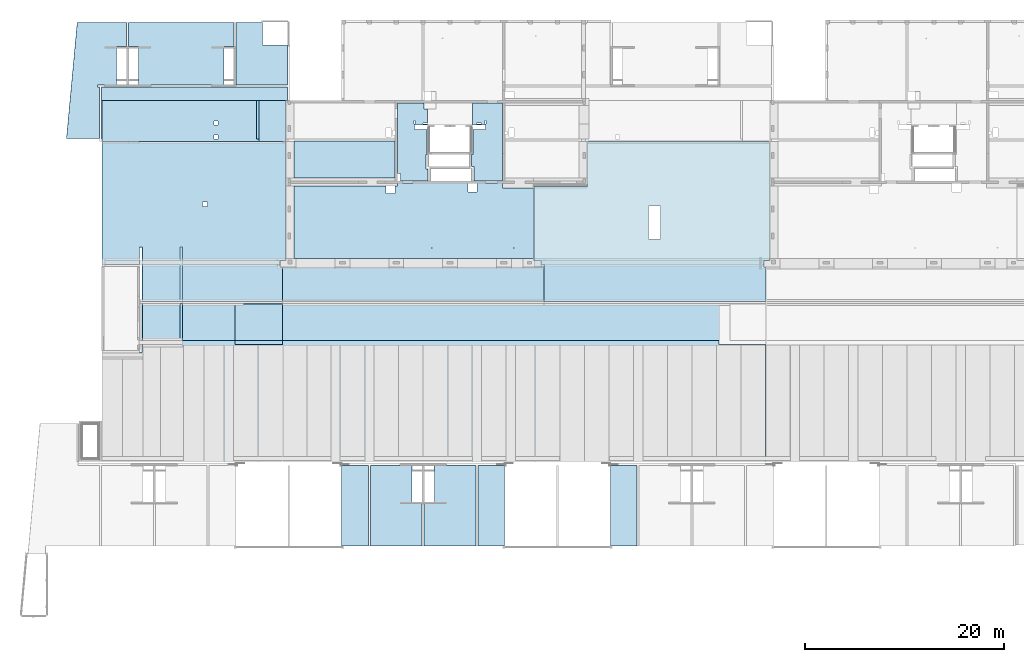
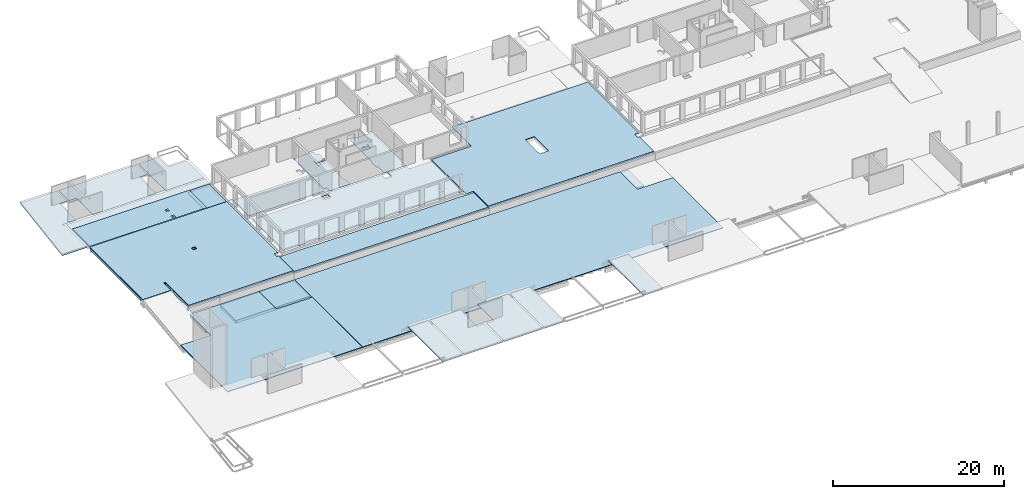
# One storey, part 15 of 36: 33 slabs, 20 openings.
"""IFC2X3 building model written with IfcOpenShell, lengths in millimetres."""

import ifcopenshell
import ifcopenshell.guid

model = None  # the IFC model being written
_history = None  # IfcOwnerHistory: only IFC2X3 demands one
_inside = {}  # id of a spatial element -> (the spatial element, [elements in it])
_under = {}  # id of a project, library or spatial element -> (it, [spatial elements below it])
_declared = {}  # id of a project -> (the project, [libraries it declares])
_typed = {}  # id of a type object -> (the type object, [elements of that type])
_made_of = {}  # id of a material, layer set ... -> (it, [elements and type objects made of it])


def new_model(schema):
    """Start an empty IFC model of exactly this schema.

    Asked for "IFC4X3", IfcOpenShell would pick the latest addendum, in which some entities
    have other attributes; the version numbers below select the first issue.
    IFC2X3 requires an IfcOwnerHistory on every rooted entity: one is made here for all.
    """
    global model, _history
    if schema == "IFC4X3":
        model = ifcopenshell.file(schema_version=(4, 3, 0, 0))
    else:
        model = ifcopenshell.file(schema=schema)
    _inside.clear()
    _under.clear()
    _declared.clear()
    _typed.clear()
    _made_of.clear()
    _history = None
    if model.schema == "IFC2X3":
        org = make("IfcOrganization", Name="unknown")
        user = make(
            "IfcPersonAndOrganization",
            ThePerson=make("IfcPerson", FamilyName="unknown"),
            TheOrganization=org,
        )
        app = make(
            "IfcApplication",
            ApplicationDeveloper=org,
            Version="unknown",
            ApplicationFullName="unknown",
            ApplicationIdentifier="unknown",
        )
        _history = make(
            "IfcOwnerHistory",
            OwningUser=user,
            OwningApplication=app,
            ChangeAction="ADDED",
            CreationDate=0,
        )
    return model


def make(cls, **values):
    """One entity of the class cls with the attributes given. An attribute that is None is left unset."""
    return model.create_entity(
        cls, **{name: value for name, value in values.items() if value is not None}
    )


def entity(cls, *values):
    """Any entity or typed value of the class cls, its attributes in the order of the schema. None: left unset."""
    e = model.create_entity(cls)
    for i, value in enumerate(values):
        if value is not None:
            e[i] = value
    return e


def rooted(cls, **values):
    """An entity with a GlobalId (a new one), such as an element, a storey or a relation."""
    return make(cls, GlobalId=ifcopenshell.guid.new(), OwnerHistory=_history, **values)


def si_unit(unit_type, name, prefix=None):
    """IfcSIUnit, for example si_unit("LENGTHUNIT", "METRE", prefix="MILLI")."""
    return make("IfcSIUnit", UnitType=unit_type, Prefix=prefix, Name=name)


def converted_unit(unit_type, name, factor, base, dimensions=None, offset=None):
    """IfcConversionBasedUnit, such as the inch: factor (a typed value) times the base unit."""
    return make(
        "IfcConversionBasedUnit"
        if offset is None
        else "IfcConversionBasedUnitWithOffset",
        ConversionOffset=offset,
        Dimensions=None
        if dimensions is None
        else entity("IfcDimensionalExponents", *dimensions),
        UnitType=unit_type,
        Name=name,
        ConversionFactor=make(
            "IfcMeasureWithUnit", ValueComponent=factor, UnitComponent=base
        ),
    )


def derived_unit(unit_type, elements):
    """IfcDerivedUnit: a product of units, each with its exponent."""
    return make(
        "IfcDerivedUnit",
        Elements=[
            make("IfcDerivedUnitElement", Unit=unit, Exponent=power)
            for unit, power in elements
        ],
        UnitType=unit_type,
    )


def assignment(units):
    """IfcUnitAssignment: the units of a project."""
    return None if units is None else make("IfcUnitAssignment", Units=units)


def point(xyz):
    """IfcCartesianPoint."""
    return None if xyz is None else make("IfcCartesianPoint", Coordinates=xyz)


def direction(xyz):
    """IfcDirection."""
    return None if xyz is None else make("IfcDirection", DirectionRatios=xyz)


def frame(location, z_axis=None, x_axis=None):
    """IfcAxis2Placement3D, a coordinate frame: its origin and axes. An axis left out is left unset."""
    return make(
        "IfcAxis2Placement3D",
        Location=point(location),
        Axis=direction(z_axis),
        RefDirection=direction(x_axis),
    )


def frame_2d(location, x_axis=None):
    """IfcAxis2Placement2D, a coordinate frame in the plane: its origin and x axis."""
    return make(
        "IfcAxis2Placement2D", Location=point(location), RefDirection=direction(x_axis)
    )


def origin():
    """The frame at (0, 0, 0) with its axes left unset."""
    return frame((0.0, 0.0, 0.0))


def origin_2d_with_axis():
    """The frame at (0, 0) in the plane with the x axis (1, 0) written out."""
    return frame_2d((0.0, 0.0), x_axis=(1.0, 0.0))


def place(relative_to, where):
    """IfcLocalPlacement: puts the frame where relative to a parent placement (None: the world)."""
    return make(
        "IfcLocalPlacement", PlacementRelTo=relative_to, RelativePlacement=where
    )


def context(
    kind, dimensions, precision=None, world=None, true_north=None, identifier=None
):
    """IfcGeometricRepresentationContext, for example the 3D "Model" context."""
    return make(
        "IfcGeometricRepresentationContext",
        ContextIdentifier=identifier,
        ContextType=kind,
        CoordinateSpaceDimension=dimensions,
        Precision=precision,
        WorldCoordinateSystem=world,
        TrueNorth=true_north,
    )


def subcontext(parent, identifier, kind, view, scale=None):
    """IfcGeometricRepresentationSubContext, for example "Body" below "Model"."""
    return make(
        "IfcGeometricRepresentationSubContext",
        ContextIdentifier=identifier,
        ContextType=kind,
        ParentContext=parent,
        TargetScale=scale,
        TargetView=view,
    )


def project(units=None, contexts=None):
    """IfcProject with its units and contexts."""
    return rooted(
        "IfcProject",
        Name="project",
        RepresentationContexts=contexts,
        UnitsInContext=assignment(units),
    )


def spatial(cls, under=None, at=None, **own):
    """A site, building, storey or space (cls), placed at a placement, below another one or the project."""
    s = rooted(cls, ObjectPlacement=at, **own)
    if under is not None:
        _under.setdefault(under.id(), (under, []))[1].append(s)
    return s


def polyline(points):
    """IfcPolyline through the points."""
    return make("IfcPolyline", Points=[point(p) for p in points])


def profile(cls, at=None, kind="AREA", **sizes):
    """A parametric profile (cls). Its sizes go by their IFC names, for example OverallWidth=200.0."""
    return make(cls, ProfileType=kind, Position=at, **sizes)


def rectangle(**sizes):
    """IfcRectangleProfileDef."""
    return profile("IfcRectangleProfileDef", **sizes)


def circle(**sizes):
    """IfcCircleProfileDef."""
    return profile("IfcCircleProfileDef", **sizes)


def outline(outer, holes=None, kind="AREA"):
    """IfcArbitraryClosedProfileDef: a profile drawn as a closed curve; with holes, ...WithVoids."""
    if holes is None:
        return make("IfcArbitraryClosedProfileDef", ProfileType=kind, OuterCurve=outer)
    return make(
        "IfcArbitraryProfileDefWithVoids",
        ProfileType=kind,
        OuterCurve=outer,
        InnerCurves=holes,
    )


def extrude(swept, where, along, depth):
    """IfcExtrudedAreaSolid: the profile swept, set in the frame where, extruded along a direction by depth."""
    return make(
        "IfcExtrudedAreaSolid",
        SweptArea=swept,
        Position=where,
        ExtrudedDirection=direction(along),
        Depth=depth,
    )


def shape(context_of_items, identifier, shape_type, items):
    """IfcShapeRepresentation: the items that make up one representation, for example the "Body"."""
    return make(
        "IfcShapeRepresentation",
        ContextOfItems=context_of_items,
        RepresentationIdentifier=identifier,
        RepresentationType=shape_type,
        Items=items,
    )


def material(Name=None, Category=None):
    """IfcMaterial."""
    return make("IfcMaterial", Name=Name, Category=Category)


def layer(
    of_material, thickness, ventilated=None, Name=None, Category=None, Priority=None
):
    """IfcMaterialLayer: one layer of a wall or slab, of a material (None: an air gap)."""
    return make(
        "IfcMaterialLayer",
        Material=of_material,
        LayerThickness=thickness,
        IsVentilated=ventilated,
        Name=Name,
        Category=Category,
        Priority=Priority,
    )


def layer_set(layers, Name=None):
    """IfcMaterialLayerSet."""
    return make("IfcMaterialLayerSet", MaterialLayers=layers, LayerSetName=Name)


def layer_usage(for_layer_set, set_direction, sense, offset, extent=None):
    """IfcMaterialLayerSetUsage: how a layer set lies in its element."""
    return make(
        "IfcMaterialLayerSetUsage",
        ForLayerSet=for_layer_set,
        LayerSetDirection=set_direction,
        DirectionSense=sense,
        OffsetFromReferenceLine=offset,
        ReferenceExtent=extent,
    )


def made_of(thing, what):
    """Note that an element or type object is made of a material, layer set ...; save() writes the relation."""
    if what is not None:
        _made_of.setdefault(what.id(), (what, []))[1].append(thing)
    return thing


def element(
    cls,
    number,
    at=None,
    inside=None,
    cuts=None,
    type_object=None,
    material=None,
    context=None,
    identifier="Body",
    shape_type=None,
    held_by="IfcProductDefinitionShape",
    body=None,
    shapes=None,
    **own,
):
    """One element of the class cls, such as IfcWall. Its Tag is "e" and its number.

    at: its placement. inside: the storey or other place that contains it. cuts: it is an
    opening in that element (IfcRelVoidsElement). A single representation is given by context,
    identifier, shape_type and body (its items); several are given by shapes. held_by: the class
    of the entity that holds the representations. save() writes the other relations.
    """
    e = rooted(cls, Tag="e%d" % number, ObjectPlacement=at, **own)
    if body is not None:
        shapes = [shape(context, identifier, shape_type, body)]
    if shapes is not None:
        e.Representation = make(held_by, Representations=shapes)
    if inside is not None:
        _inside.setdefault(inside.id(), (inside, []))[1].append(e)
    if cuts is not None:
        rooted(
            "IfcRelVoidsElement", RelatingBuildingElement=cuts, RelatedOpeningElement=e
        )
    if type_object is not None:
        _typed.setdefault(type_object.id(), (type_object, []))[1].append(e)
    return made_of(e, material)


def aggregate(whole, parts):
    """IfcRelAggregates: a whole, such as a stair, and the parts it consists of."""
    return rooted("IfcRelAggregates", RelatingObject=whole, RelatedObjects=parts)


def save(model, path):
    """Write the relations noted so far, then the file.

    IfcRelAggregates (storeys below a building ...), IfcRelContainedInSpatialStructure (elements
    in a storey), IfcRelDefinesByType, IfcRelAssociatesMaterial and IfcRelDeclares: one each for
    every whole, place, type object, material and project.
    """
    for whole, parts in _under.values():
        aggregate(whole, parts)
    for where, things in _inside.values():
        rooted(
            "IfcRelContainedInSpatialStructure",
            RelatedElements=things,
            RelatingStructure=where,
        )
    for kind, things in _typed.values():
        rooted("IfcRelDefinesByType", RelatedObjects=things, RelatingType=kind)
    for what, things in _made_of.values():
        rooted("IfcRelAssociatesMaterial", RelatedObjects=things, RelatingMaterial=what)
    for by, libraries in _declared.values():
        rooted("IfcRelDeclares", RelatingContext=by, RelatedDefinitions=libraries)
    model.write(path)


model = new_model("IFC2X3")

# Units and contexts
model_context = context("Model", 3, precision=0.01, world=origin(), true_north=direction((6.12303176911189e-17, 1.0)))
body_context = subcontext(model_context, "Body", "Model", "MODEL_VIEW")
ifc_project = project(units=[si_unit("LENGTHUNIT", "METRE", prefix="MILLI"), si_unit("AREAUNIT", "SQUARE_METRE"), si_unit("VOLUMEUNIT", "CUBIC_METRE"), converted_unit("PLANEANGLEUNIT", "DEGREE", entity("IfcRatioMeasure", 0.0174532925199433), si_unit("PLANEANGLEUNIT", "RADIAN"), dimensions=[0, 0, 0, 0, 0, 0, 0]), si_unit("MASSUNIT", "GRAM", prefix="KILO"), derived_unit("MASSDENSITYUNIT", [(si_unit("MASSUNIT", "GRAM", prefix="KILO"), 1), (si_unit("LENGTHUNIT", "METRE"), -3)]), si_unit("TIMEUNIT", "SECOND"), si_unit("FREQUENCYUNIT", "HERTZ"), si_unit("THERMODYNAMICTEMPERATUREUNIT", "DEGREE_CELSIUS"), derived_unit("THERMALTRANSMITTANCEUNIT", [(si_unit("MASSUNIT", "GRAM", prefix="KILO"), 1), (si_unit("THERMODYNAMICTEMPERATUREUNIT", "KELVIN"), -1), (si_unit("TIMEUNIT", "SECOND"), -3)]), derived_unit("VOLUMETRICFLOWRATEUNIT", [(si_unit("LENGTHUNIT", "METRE"), 3), (si_unit("TIMEUNIT", "SECOND"), -1)]), si_unit("ELECTRICCURRENTUNIT", "AMPERE"), si_unit("ELECTRICVOLTAGEUNIT", "VOLT"), si_unit("POWERUNIT", "WATT"), si_unit("FORCEUNIT", "NEWTON", prefix="KILO"), si_unit("ILLUMINANCEUNIT", "LUX"), si_unit("LUMINOUSFLUXUNIT", "LUMEN"), si_unit("LUMINOUSINTENSITYUNIT", "CANDELA"), derived_unit("USERDEFINED", [(si_unit("MASSUNIT", "GRAM", prefix="KILO"), -1), (si_unit("LENGTHUNIT", "METRE"), -2), (si_unit("TIMEUNIT", "SECOND"), 3), (si_unit("LUMINOUSFLUXUNIT", "LUMEN"), 1)]), derived_unit("LINEARVELOCITYUNIT", [(si_unit("LENGTHUNIT", "METRE"), 1), (si_unit("TIMEUNIT", "SECOND"), -1)]), si_unit("PRESSUREUNIT", "PASCAL"), derived_unit("USERDEFINED", [(si_unit("LENGTHUNIT", "METRE"), -2), (si_unit("MASSUNIT", "GRAM", prefix="KILO"), 1), (si_unit("TIMEUNIT", "SECOND"), -2)])], contexts=[model_context])

# Site, building, storey
site_placement = place(None, origin())
site = spatial("IfcSite", under=ifc_project, at=site_placement, Name="Default", CompositionType="ELEMENT")
building_placement = place(site_placement, origin())
building = spatial("IfcBuilding", under=site, at=building_placement, Name="niet gebruiken", CompositionType="ELEMENT")
storey_placement = place(building_placement, frame((0.0, 0.0, 12600.0)))
storey = spatial("IfcBuildingStorey", under=building, at=storey_placement, Name="04 vierde verdieping", CompositionType="ELEMENT", Elevation=12600.0)

# Slab, opening
ifc_material_1 = material(Name="NLRS_f2_beton prefab")
ifc_layer_1 = layer(ifc_material_1, 400.0)
ifc_layer_set_1 = layer_set([ifc_layer_1], Name="Floor:NLRS_23.21_FL_kanaalplaat d=400_gen")
ifc_layer_usage_1 = layer_usage(ifc_layer_set_1, "AXIS3", "POSITIVE", 0.0)
slab_1_placement = place(storey_placement, frame((8245.0, 29101.0, -640.0)))
slab_1 = element("IfcSlab", 1, at=slab_1_placement, inside=storey, material=ifc_layer_usage_1, Name="Floor:NLRS_23.21_FL_kanaalplaat d=400_gen", ObjectType="Floor:NLRS_23.21_FL_kanaalplaat d=400_gen", PredefinedType="FLOOR", context=body_context, shape_type="SweptSolid", body=[
    extrude(outline(polyline([(9215.0, 5970.0), (-9215.0, 5970.0), (-9215.0, -5970.0), (1115.0, -5970.0), (1115.0, -4625.0), (1405.0, -4625.0), (1405.0, -5970.0), (5165.0, -5970.0), (5165.0, -4625.0), (5455.0, -4625.0), (5455.0, -5970.0), (9215.0, -5970.0), (9215.0, 5970.0)])), frame((9215.0, 5970.0, 400.0), z_axis=(0.0, 0.0, -1.0), x_axis=(-1.0, 0.0, 0.0)), (0.0, 0.0, 1.0), 400.0),
])
opening_1_placement = place(slab_1_placement, frame((10360.0, 5630.0, 400.0)))
element("IfcOpeningElement", 2, at=opening_1_placement, cuts=slab_1, Name="Floor:NLRS_23.21_FL_kanaalplaat d=400_gen:2", ObjectType="Opening", context=body_context, shape_type="SweptSolid", body=[
    extrude(rectangle(XDim=499.999999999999, YDim=450.000000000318, at=origin_2d_with_axis()), frame((0.0, 0.0, 0.0), z_axis=(0.0, 0.0, -1.0), x_axis=(1.0, 0.0, 0.0)), (0.0, 0.0, 1.0), 400.0),
])

# Slab
ifc_layer_usage_2 = layer_usage(ifc_layer_set_1, "AXIS3", "POSITIVE", 0.0)
slab_2_placement = place(storey_placement, origin())
element("IfcSlab", 3, at=slab_2_placement, inside=storey, material=ifc_layer_usage_2, Name="Floor:NLRS_23.21_FL_kanaalplaat d=400_gen", ObjectType="Floor:NLRS_23.21_FL_kanaalplaat d=400_gen", PredefinedType="FLOOR", context=body_context, shape_type="SweptSolid", body=[
    extrude(outline(polyline([(-2351.66666666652, -6596.66666666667), (1288.33333333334, -6596.66666666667), (1288.33333333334, 3188.33333333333), (1063.33333333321, 3188.33333333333), (1063.33333333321, 3408.33333333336), (-2351.66666666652, 3408.33333333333), (-2351.66666666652, -6596.66666666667)])), frame((22941.6666666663, 27372.6666666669, -240.0), z_axis=(0.0, 0.0, -1.0), x_axis=(0.0, 1.0, 0.0)), (0.0, 0.0, 1.0), 400.0),
])

# Slab, opening
ifc_material_2 = material(Name="NLRS_f2_beton ihwg")
ifc_layer_2 = layer(ifc_material_2, 80.0)
ifc_layer_set_2 = layer_set([ifc_layer_2], Name="Floor:NLRS_23.21_FL_druklaag d=80-var_gen")
ifc_layer_usage_3 = layer_usage(ifc_layer_set_2, "AXIS3", "POSITIVE", 0.0)
slab_3_placement = place(storey_placement, frame((8225.0, 25001.0, -240.0)))
slab_3 = element("IfcSlab", 4, at=slab_3_placement, inside=storey, material=ifc_layer_usage_3, Name="Floor:NLRS_23.21_FL_druklaag d=80-var_gen", ObjectType="Floor:NLRS_23.21_FL_druklaag d=80-var_gen", PredefinedType="FLOOR", context=body_context, shape_type="SweptSolid", body=[
    extrude(outline(polyline([(5425.0, -4370.0), (9225.0, -4370.0), (9225.0, 8030.0), (-9225.0, 8030.0), (-9225.0, -3930.0), (-8680.0, -3930.0), (-8680.0, -4595.0), (-8900.0, -4595.0), (-8900.0, -8030.0), (5175.0, -8030.0), (5175.0, -2605.0), (5425.0, -2605.0), (5425.0, -4370.0)])), frame((9225.0, 8030.0, 80.0), z_axis=(0.0, 0.0, -1.0), x_axis=(-1.0, 0.0, 0.0)), (0.0, 0.0, 1.0), 79.9999999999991),
])
opening_2_placement = place(slab_3_placement, frame((10380.0, 9730.0, 80.0)))
element("IfcOpeningElement", 5, at=opening_2_placement, cuts=slab_3, Name="Floor:NLRS_23.21_FL_druklaag d=80-var_gen:2", ObjectType="Opening", context=body_context, shape_type="SweptSolid", body=[
    extrude(rectangle(XDim=499.999999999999, YDim=450.000000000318, at=origin_2d_with_axis()), frame((0.0, 0.0, 0.0), z_axis=(0.0, 0.0, -1.0), x_axis=(1.0, 0.0, 0.0)), (0.0, 0.0, 1.0), 79.9999999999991),
])

# Slab
ifc_layer_usage_4 = layer_usage(ifc_layer_set_1, "AXIS3", "POSITIVE", 0.0)
slab_4_placement = place(storey_placement, origin())
element("IfcSlab", 6, at=slab_4_placement, inside=storey, material=ifc_layer_usage_4, Name="Floor:NLRS_23.21_FL_kanaalplaat d=400_gen", ObjectType="Floor:NLRS_23.21_FL_kanaalplaat d=400_gen", PredefinedType="FLOOR", context=body_context, shape_type="SweptSolid", body=[
    extrude(outline(polyline([(-2351.66666666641, -14785.0), (1288.33333333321, -14785.0), (1288.33333333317, 7280.0), (1063.33333333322, 7280.0), (1063.33333333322, 7505.0), (-2351.66666666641, 7505.0), (-2351.66666666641, -14785.0)])), frame((67445.0, 27372.6666666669, -240.0), z_axis=(0.0, 0.0, -1.0), x_axis=(0.0, 1.0, 0.0)), (0.0, 0.0, 1.0), 400.0),
])

# Slab, opening
ifc_layer_3 = layer(ifc_material_2, 80.0)
ifc_layer_set_3 = layer_set([ifc_layer_3], Name="Floor:NLRS_23.21_FL_druklaag d=80_gen")
ifc_layer_usage_5 = layer_usage(ifc_layer_set_3, "AXIS3", "POSITIVE", 0.0)
slab_5_placement = place(storey_placement, frame((51625.0, 25001.0, -240.0)))
slab_5 = element("IfcSlab", 7, at=slab_5_placement, inside=storey, material=ifc_layer_usage_5, Name="Floor:NLRS_23.21_FL_druklaag d=80_gen", ObjectType="Floor:NLRS_23.21_FL_druklaag d=80_gen", PredefinedType="FLOOR", context=body_context, shape_type="SweptSolid", body=[
    extrude(outline(polyline([(6425.0, 3515.0), (6425.0, 8020.0), (-11825.0, 8020.0), (-11825.0, -3920.0), (-11275.0, -3920.0), (-11275.0, -4585.0), (-11500.0, -4585.0), (-11500.0, -8020.0), (10800.0, -8020.0), (10800.0, -4340.0), (11090.0, -4340.0), (11090.0, -3940.0), (11825.0, -3940.0), (11825.0, 3515.0), (6425.0, 3515.0)])), frame((11825.0, 8020.0, 80.0), z_axis=(0.0, 0.0, -1.0), x_axis=(-1.0, 0.0, 0.0)), (0.0, 0.0, 1.0), 79.9999999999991),
])
opening_3_placement = place(slab_5_placement, origin())
element("IfcOpeningElement", 8, at=opening_3_placement, cuts=slab_5, ObjectType="Opening", context=body_context, shape_type="SweptSolid", body=[
    extrude(rectangle(XDim=1200.0, YDim=3300.0, at=origin_2d_with_axis()), frame((12130.0, 7905.0, -170.0), z_axis=(0.0, 0.0, 1.0), x_axis=(-1.0, 0.0, 0.0)), (0.0, 0.0, 1.0), 249.999999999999),
])

# Slabs
ifc_layer_4 = layer(ifc_material_2, 100.0)
ifc_layer_set_4 = layer_set([ifc_layer_4], Name="Floor:NLRS_23.21_FL_druklaag d=100_gen")
ifc_layer_usage_6 = layer_usage(ifc_layer_set_4, "AXIS3", "POSITIVE", 0.0)
slab_6_placement = place(storey_placement, origin())
element("IfcSlab", 9, at=slab_6_placement, inside=storey, material=ifc_layer_usage_6, Name="Floor:NLRS_23.21_FL_druklaag d=100_gen", ObjectType="Floor:NLRS_23.21_FL_druklaag d=100_gen", PredefinedType="FLOOR", context=body_context, shape_type="SweptSolid", body=[
    extrude(outline(polyline([(1896.25000000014, -23113.0), (6021.24999999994, -23113.0), (6021.24999999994, 20717.0), (1916.24999999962, 20717.0), (1916.2499999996, 25467.0), (-9833.7499999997, 25467.0), (-9833.7499999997, -23071.0), (1896.25000000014, -23071.0), (1896.25000000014, -23113.0)])), frame((49483.0, 18729.7500000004, -1260.0), z_axis=(0.0, 0.0, -1.0), x_axis=(0.0, 1.0, 0.0)), (0.0, 0.0, 1.0), 99.9999999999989),
])
ifc_layer_usage_7 = layer_usage(ifc_layer_set_4, "AXIS3", "POSITIVE", 0.0)
slab_7_placement = place(storey_placement, origin())
element("IfcSlab", 10, at=slab_7_placement, inside=storey, material=ifc_layer_usage_7, Name="Floor:NLRS_23.21_FL_druklaag d=100_gen", ObjectType="Floor:NLRS_23.21_FL_druklaag d=100_gen", PredefinedType="FLOOR", context=body_context, shape_type="SweptSolid", body=[
    extrude(outline(polyline([(-9638.74999756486, -8898.0), (1311.24999918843, -8898.0), (1311.24999918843, -4848.0), (6216.24999918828, -4848.0), (6216.24999918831, 4477.0), (2111.2499991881, 4477.0), (2111.24999918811, 9269.0), (-9638.74999756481, 9269.0), (-9638.74999756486, -8898.0)])), frame((17123.0, 18534.7500008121, -1260.0), z_axis=(0.0, 0.0, -1.0), x_axis=(0.0, 1.0, 0.0)), (0.0, 0.0, 1.0), 99.9999999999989),
])
ifc_layer_usage_8 = layer_usage(ifc_layer_set_4, "AXIS3", "POSITIVE", 0.0)
slab_8_placement = place(storey_placement, origin())
element("IfcSlab", 11, at=slab_8_placement, inside=storey, material=ifc_layer_usage_8, Name="Floor:NLRS_23.21_FL_druklaag d=100_gen", ObjectType="Floor:NLRS_23.21_FL_druklaag d=100_gen", PredefinedType="FLOOR", context=body_context, shape_type="SweptSolid", body=[
    extrude(rectangle(XDim=4105.00000000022, YDim=4750.0, at=frame_2d((-2.04636307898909e-12, 0.0), x_axis=(1.0, 0.0))), frame((23975.0, 22698.5000000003, -1260.0), z_axis=(0.0, 0.0, -1.0), x_axis=(0.0, 1.0, 0.0)), (0.0, 0.0, 1.0), 99.9999999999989),
])
ifc_layer_usage_9 = layer_usage(ifc_layer_set_1, "AXIS3", "POSITIVE", 0.0)
slab_9_placement = place(storey_placement, origin())
element("IfcSlab", 12, at=slab_9_placement, inside=storey, material=ifc_layer_usage_9, Name="Floor:NLRS_23.21_FL_kanaalplaat d=400_gen", ObjectType="Floor:NLRS_23.21_FL_kanaalplaat d=400_gen", PredefinedType="FLOOR", context=body_context, shape_type="SweptSolid", body=[
    extrude(rectangle(XDim=3664.99999999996, YDim=44959.9999999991, at=origin_2d_with_axis()), frame((48870.0, 22898.4999999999, -1360.0), z_axis=(0.0, 0.0, -1.0), x_axis=(0.0, 1.0, 0.0)), (0.0, 0.0, 1.0), 400.0),
])
ifc_layer_usage_10 = layer_usage(ifc_layer_set_1, "AXIS3", "POSITIVE", 0.0)
slab_10_placement = place(storey_placement, origin())
element("IfcSlab", 13, at=slab_10_placement, inside=storey, material=ifc_layer_usage_10, Name="Floor:NLRS_23.21_FL_kanaalplaat d=400_gen", ObjectType="Floor:NLRS_23.21_FL_kanaalplaat d=400_gen", PredefinedType="FLOOR", context=body_context, shape_type="SweptSolid", body=[
    extrude(rectangle(XDim=3664.99999999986, YDim=5255.00000000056, at=origin_2d_with_axis()), frame((18972.4999999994, 22898.5, -1360.0), z_axis=(0.0, 0.0, -1.0), x_axis=(0.0, 1.0, 0.0)), (0.0, 0.0, 1.0), 400.0),
])
ifc_layer_usage_11 = layer_usage(ifc_layer_set_1, "AXIS3", "POSITIVE", 0.0)
slab_11_placement = place(storey_placement, origin())
element("IfcSlab", 14, at=slab_11_placement, inside=storey, material=ifc_layer_usage_11, Name="Floor:NLRS_23.21_FL_kanaalplaat d=400_gen", ObjectType="Floor:NLRS_23.21_FL_kanaalplaat d=400_gen", PredefinedType="FLOOR", context=body_context, shape_type="SweptSolid", body=[
    extrude(rectangle(XDim=3664.99999999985, YDim=4750.0, at=origin_2d_with_axis()), frame((23975.0, 22898.5, -1360.0), z_axis=(0.0, 0.0, -1.0), x_axis=(0.0, 1.0, 0.0)), (0.0, 0.0, 1.0), 400.0),
])
ifc_layer_usage_12 = layer_usage(ifc_layer_set_1, "AXIS3", "POSITIVE", 0.0)
slab_12_placement = place(storey_placement, origin())
element("IfcSlab", 15, at=slab_12_placement, inside=storey, material=ifc_layer_usage_12, Name="Floor:NLRS_23.21_FL_kanaalplaat d=400_gen", ObjectType="Floor:NLRS_23.21_FL_kanaalplaat d=400_gen", PredefinedType="FLOOR", context=body_context, shape_type="SweptSolid", body=[
    extrude(rectangle(XDim=3639.99999999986, YDim=3760.00000000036, at=origin_2d_with_axis()), frame((14175.0, 26841.0, -240.0), z_axis=(0.0, 0.0, -1.0), x_axis=(0.0, 1.0, 0.0)), (0.0, 0.0, 1.0), 400.0),
])
ifc_layer_usage_13 = layer_usage(ifc_layer_set_1, "AXIS3", "POSITIVE", 0.0)
slab_13_placement = place(storey_placement, origin())
element("IfcSlab", 16, at=slab_13_placement, inside=storey, material=ifc_layer_usage_13, Name="Floor:NLRS_23.21_FL_kanaalplaat d=400_gen", ObjectType="Floor:NLRS_23.21_FL_kanaalplaat d=400_gen", PredefinedType="FLOOR", context=body_context, shape_type="SweptSolid", body=[
    extrude(rectangle(XDim=3639.99999999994, YDim=3760.00000000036, at=origin_2d_with_axis()), frame((14175.0, 22886.0, -1360.0), z_axis=(0.0, 0.0, -1.0), x_axis=(0.0, 1.0, 0.0)), (0.0, 0.0, 1.0), 400.0),
])
ifc_layer_5 = layer(ifc_material_1, 70.0)
ifc_layer_set_5 = layer_set([ifc_layer_5], Name="Floor:NLRS_23.21_FL_breedplaatschil d=70_gen")
ifc_layer_usage_14 = layer_usage(ifc_layer_set_5, "AXIS3", "POSITIVE", 0.0)
slab_14_placement = place(storey_placement, origin())
element("IfcSlab", 17, at=slab_14_placement, inside=storey, material=ifc_layer_usage_14, Name="Floor:NLRS_23.21_FL_breedplaatschil d=70_gen", ObjectType="Floor:NLRS_23.21_FL_breedplaatschil d=70_gen", PredefinedType="FLOOR", context=body_context, shape_type="SweptSolid", body=[
    extrude(outline(polyline([(-4114.0, -2070.0), (132.0, -2070.0), (132.0, -1050.0), (3982.0, -1050.0), (3982.0, 3120.0), (-4114.0, 3120.0), (-4114.0, -2070.0)])), frame((42675.0, 4534.0, -270.0), z_axis=(0.0, 0.0, -1.0), x_axis=(0.0, 1.0, 0.0)), (0.0, 0.0, 1.0), 69.9999999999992),
])
ifc_layer_usage_15 = layer_usage(ifc_layer_set_5, "AXIS3", "POSITIVE", 0.0)
slab_15_placement = place(storey_placement, origin())
element("IfcSlab", 18, at=slab_15_placement, inside=storey, material=ifc_layer_usage_15, Name="Floor:NLRS_23.21_FL_breedplaatschil d=70_gen", ObjectType="Floor:NLRS_23.21_FL_breedplaatschil d=70_gen", PredefinedType="FLOOR", context=body_context, shape_type="SweptSolid", body=[
    extrude(rectangle(XDim=8095.99999999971, YDim=2675.00000000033, at=frame_2d((-2.27373675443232e-13, 0.0), x_axis=(1.0, 0.0))), frame((47342.4999999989, 4468.0, -270.0), z_axis=(0.0, 0.0, -1.0), x_axis=(0.0, 1.0, 0.0)), (0.0, 0.0, 1.0), 69.9999999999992),
])
ifc_layer_usage_16 = layer_usage(ifc_layer_set_5, "AXIS3", "POSITIVE", 0.0)
slab_16_placement = place(storey_placement, origin())
element("IfcSlab", 19, at=slab_16_placement, inside=storey, material=ifc_layer_usage_16, Name="Floor:NLRS_23.21_FL_breedplaatschil d=70_gen", ObjectType="Floor:NLRS_23.21_FL_breedplaatschil d=70_gen", PredefinedType="FLOOR", context=body_context, shape_type="SweptSolid", body=[
    extrude(outline(polyline([(-4114.0, -3120.0), (3982.0, -3120.0), (3982.0, 1050.0), (132.0, 1050.0), (132.0, 2070.0), (-4114.0, 2070.0), (-4114.0, -3120.0)])), frame((38325.0, 4534.0, -270.0), z_axis=(0.0, 0.0, -1.0), x_axis=(0.0, 1.0, 0.0)), (0.0, 0.0, 1.0), 69.9999999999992),
])
ifc_layer_usage_17 = layer_usage(ifc_layer_set_5, "AXIS3", "POSITIVE", 0.0)
slab_17_placement = place(storey_placement, origin())
element("IfcSlab", 20, at=slab_17_placement, inside=storey, material=ifc_layer_usage_17, Name="Floor:NLRS_23.21_FL_breedplaatschil d=70_gen", ObjectType="Floor:NLRS_23.21_FL_breedplaatschil d=70_gen", PredefinedType="FLOOR", context=body_context, shape_type="SweptSolid", body=[
    extrude(rectangle(XDim=8095.99999999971, YDim=2675.00000000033, at=frame_2d((0.0, -2.1600499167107e-12), x_axis=(1.0, 0.0))), frame((33657.4999999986, 4468.0, -270.0), z_axis=(0.0, 0.0, -1.0), x_axis=(0.0, 1.0, 0.0)), (0.0, 0.0, 1.0), 69.9999999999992),
])
ifc_layer_usage_18 = layer_usage(ifc_layer_set_5, "AXIS3", "POSITIVE", 0.0)
slab_18_placement = place(storey_placement, origin())
element("IfcSlab", 21, at=slab_18_placement, inside=storey, material=ifc_layer_usage_18, Name="Floor:NLRS_23.21_FL_breedplaatschil d=70_gen", ObjectType="Floor:NLRS_23.21_FL_breedplaatschil d=70_gen", PredefinedType="FLOOR", context=body_context, shape_type="SweptSolid", body=[
    extrude(rectangle(XDim=8095.99999999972, YDim=2675.00000000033, at=frame_2d((4.54747350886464e-13, 0.0), x_axis=(1.0, 0.0))), frame((60657.4999999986, 4468.0, -270.0), z_axis=(0.0, 0.0, -1.0), x_axis=(0.0, 1.0, 0.0)), (0.0, 0.0, 1.0), 69.9999999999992),
])

# Slab, openings
ifc_layer_usage_19 = layer_usage(ifc_layer_set_5, "AXIS3", "POSITIVE", 0.0)
slab_19_placement = place(storey_placement, frame((8205.0, 41291.0, -340.0)))
slab_19 = element("IfcSlab", 22, at=slab_19_placement, inside=storey, material=ifc_layer_usage_19, Name="Floor:NLRS_23.21_FL_breedplaatschil d=70_gen", ObjectType="Floor:NLRS_23.21_FL_breedplaatschil d=70_gen", PredefinedType="FLOOR", context=body_context, shape_type="SweptSolid", body=[
    extrude(outline(polyline([(-9332.5, 2612.4999999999), (-9332.5, 1272.49999999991), (-6237.49999999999, 1272.49999999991), (-6237.49999999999, -2612.4999999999), (9332.5, -2612.4999999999), (9332.5, 2612.4999999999), (-9332.5, 2612.4999999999)])), frame((9332.5, 2612.4999999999, 70.0), z_axis=(0.0, 0.0, -1.0), x_axis=(-1.0, 0.0, 0.0)), (0.0, 0.0, 1.0), 69.9999999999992),
])
opening_4_placement = place(slab_19_placement, origin())
element("IfcOpeningElement", 23, at=opening_4_placement, cuts=slab_19, ObjectType="Opening", context=body_context, shape_type="SweptSolid", body=[
    extrude(rectangle(XDim=400.000000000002, YDim=400.000000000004, at=origin_2d_with_axis()), frame((11490.0, 220.000095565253, 0.0), z_axis=(0.0, 0.0, 1.0), x_axis=(-1.0, 0.0, 0.0)), (0.0, 0.0, 1.0), 275.0),
])
opening_5_placement = place(slab_19_placement, origin())
element("IfcOpeningElement", 24, at=opening_5_placement, cuts=slab_19, ObjectType="Opening", context=body_context, shape_type="SweptSolid", body=[
    extrude(rectangle(XDim=400.000000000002, YDim=400.000000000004, at=origin_2d_with_axis()), frame((11490.0, 1620.0, 0.0), z_axis=(0.0, 0.0, 1.0), x_axis=(-1.0, 0.0, 0.0)), (0.0, 0.0, 1.0), 275.0),
])

# Slabs
ifc_layer_usage_20 = layer_usage(ifc_layer_set_5, "AXIS3", "POSITIVE", 0.0)
slab_20_placement = place(storey_placement, origin())
element("IfcSlab", 25, at=slab_20_placement, inside=storey, material=ifc_layer_usage_20, Name="Floor:NLRS_23.21_FL_breedplaatschil d=70_gen", ObjectType="Floor:NLRS_23.21_FL_breedplaatschil d=70_gen", PredefinedType="FLOOR", context=body_context, shape_type="SweptSolid", body=[
    extrude(outline(polyline([(360.0, -5295.0), (2770.0, -5295.0), (2770.0, 5295.0), (360.0, 5295.0), (360.0, 4275.0), (-3490.0, 4275.0), (-3490.0, -4275.0), (360.0, -4275.0), (360.0, -5295.0)])), frame((16200.0, 50216.0, -270.0), z_axis=(0.0, 0.0, -1.0), x_axis=(0.0, 1.0, 0.0)), (0.0, 0.0, 1.0), 69.9999999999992),
])
ifc_layer_usage_21 = layer_usage(ifc_layer_set_5, "AXIS3", "POSITIVE", 0.0)
slab_21_placement = place(storey_placement, origin())
element("IfcSlab", 26, at=slab_21_placement, inside=storey, material=ifc_layer_usage_21, Name="Floor:NLRS_23.21_FL_breedplaatschil d=70_gen", ObjectType="Floor:NLRS_23.21_FL_breedplaatschil d=70_gen", PredefinedType="FLOOR", context=body_context, shape_type="SweptSolid", body=[
    extrude(outline(polyline([(280.397999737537, -6292.0), (3608.35662763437, -6292.0), (2528.45937446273, 5358.0), (-2419.60200026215, 5358.0), (-2419.60200026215, 2948.0), (-1399.60200026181, 2948.0), (-1399.60200026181, -902.0), (470.397999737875, -902.0), (470.397999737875, -1112.0), (280.397999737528, -1112.0), (280.397999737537, -6292.0)])), frame((8275.39799973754, 47628.0, -270.0), z_axis=(0.0, 0.0, -1.0), x_axis=(-1.0, 0.0, 0.0)), (0.0, 0.0, 1.0), 69.9999999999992),
])
ifc_layer_usage_22 = layer_usage(ifc_layer_set_5, "AXIS3", "POSITIVE", 0.0)
slab_22_placement = place(storey_placement, origin())
element("IfcSlab", 27, at=slab_22_placement, inside=storey, material=ifc_layer_usage_22, Name="Floor:NLRS_23.21_FL_breedplaatschil d=70_gen", ObjectType="Floor:NLRS_23.21_FL_breedplaatschil d=70_gen", PredefinedType="FLOOR", context=body_context, shape_type="SweptSolid", body=[
    extrude(outline(polyline([(-3430.0, -2613.31666194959), (2830.0, -2613.31666194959), (2830.0, 61.6333238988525), (600.0, 61.6333238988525), (600.0, 2551.68333805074), (-3430.0, 2551.68333805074), (-3430.0, -2613.31666194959)])), frame((24318.3166619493, 50156.0, -270.0), z_axis=(0.0, 0.0, -1.0), x_axis=(0.0, 1.0, 0.0)), (0.0, 0.0, 1.0), 69.9999999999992),
])

# Slab, openings
ifc_layer_usage_23 = layer_usage(ifc_layer_set_5, "AXIS3", "POSITIVE", 0.0)
slab_23_placement = place(storey_placement, frame((37905.0, 37086.0, -340.0)))
slab_23 = element("IfcSlab", 28, at=slab_23_placement, inside=storey, material=ifc_layer_usage_23, Name="Floor:NLRS_23.21_FL_breedplaatschil d=70_gen", ObjectType="Floor:NLRS_23.21_FL_breedplaatschil d=70_gen", PredefinedType="FLOOR", context=body_context, shape_type="SweptSolid", body=[
    extrude(outline(polyline([(2295.00015089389, 1250.0), (2295.00015089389, -1280.0), (2390.0, -1280.0), (2390.0, -2700.0), (2200.00021676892, -2700.0), (2200.00021676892, -3920.0), (4975.0, -3920.0), (4975.0, -3180.0), (5295.0, -3180.0), (5295.0, 3920.0), (2275.00015089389, 3920.0), (2275.00015089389, 1690.0), (3572.50015089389, 1690.0), (3572.50015089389, 1250.0), (2295.00015089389, 1250.0)])), frame((5295.0, 3920.0, 70.0), z_axis=(0.0, 0.0, -1.0), x_axis=(-1.0, 0.0, 0.0)), (0.0, 0.0, 1.0), 69.9999999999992),
])
placement_1 = place(slab_23_placement, origin())
element("IfcOpeningElement", 29, at=placement_1, cuts=slab_23, ObjectType="Opening", context=body_context, shape_type="SweptSolid", body=[
    extrude(rectangle(XDim=1200.0, YDim=1800.00000000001, at=origin_2d_with_axis()), frame((3295.0, 8105.0, 0.0), z_axis=(0.0, 0.0, 1.0), x_axis=(-1.0, 0.0, 0.0)), (0.0, 0.0, 1.0), 100.000000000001),
])
placement_2 = place(slab_23_placement, origin())
element("IfcOpeningElement", 30, at=placement_2, cuts=slab_23, ObjectType="Opening", context=body_context, shape_type="SweptSolid", body=[
    extrude(rectangle(XDim=100.000000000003, YDim=440.000000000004, at=origin_2d_with_axis()), frame((2799.99984910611, 5760.0, 0.0), z_axis=(0.0, 0.0, 1.0), x_axis=(0.0, -1.0, 0.0)), (0.0, 0.0, 1.0), 249.999999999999),
])
placement_3 = place(slab_23_placement, origin())
element("IfcOpeningElement", 31, at=placement_3, cuts=slab_23, ObjectType="Opening", context=body_context, shape_type="SweptSolid", body=[
    extrude(rectangle(XDim=1297.5, YDim=440.000000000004, at=origin_2d_with_axis()), frame((8218.74984910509, 5390.0, 0.0), z_axis=(0.0, 0.0, 1.0), x_axis=(-1.0, 0.0, 0.0)), (0.0, 0.0, 1.0), 249.999999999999),
])
placement_4 = place(slab_23_placement, origin())
element("IfcOpeningElement", 32, at=placement_4, cuts=slab_23, ObjectType="Opening", context=body_context, shape_type="SweptSolid", body=[
    extrude(rectangle(XDim=100.000000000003, YDim=340.000000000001, at=origin_2d_with_axis()), frame((1750.0, 5880.0, 0.0), z_axis=(0.0, 0.0, 1.0), x_axis=(-1.0, 0.0, 0.0)), (0.0, 0.0, 1.0), 249.999999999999),
])
placement_5 = place(slab_23_placement, origin())
element("IfcOpeningElement", 33, at=placement_5, cuts=slab_23, ObjectType="Opening", context=body_context, shape_type="SweptSolid", body=[
    extrude(rectangle(XDim=490.000000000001, YDim=100.000000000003, at=origin_2d_with_axis()), frame((8222.50000000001, 5760.0, 0.0), z_axis=(0.0, 0.0, 1.0), x_axis=(-1.0, 0.0, 0.0)), (0.0, 0.0, 1.0), 249.999999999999),
])
placement_6 = place(slab_23_placement, origin())
element("IfcOpeningElement", 34, at=placement_6, cuts=slab_23, ObjectType="Opening", context=body_context, shape_type="SweptSolid", body=[
    extrude(rectangle(XDim=340.000000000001, YDim=100.000000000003, at=origin_2d_with_axis()), frame((8859.0, 5880.0, 0.0), z_axis=(0.0, 0.0, 1.0), x_axis=(0.0, -1.0, 0.0)), (0.0, 0.0, 1.0), 249.999999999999),
])

slab_24_placement = place(storey_placement, frame((37905.0, 37086.0, -340.0)))
slab_24 = element("IfcSlab", 35, at=slab_24_placement, inside=storey, material=ifc_layer_usage_23, Name="Floor:NLRS_23.21_FL_breedplaatschil d=70_gen:2", ObjectType="Floor:NLRS_23.21_FL_breedplaatschil d=70_gen", PredefinedType="FLOOR", context=body_context, shape_type="SweptSolid", body=[
    extrude(outline(polyline([(-2274.99984910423, 1690.0), (-2274.99984910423, 3920.0), (-5295.0, 3920.0), (-5295.0, -3920.0), (-2390.0, -3920.0), (-2390.0, -2460.0), (-2170.0, -2460.0), (-2170.0, -1280.0), (-2294.99984910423, -1280.0), (-2294.99984910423, 1690.0), (-2274.99984910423, 1690.0)])), frame((5295.0, 3920.0, 70.0), z_axis=(0.0, 0.0, -1.0), x_axis=(-1.0, 0.0, 0.0)), (0.0, 0.0, 1.0), 69.9999999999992),
])
element("IfcOpeningElement", 36, at=placement_1, cuts=slab_24, ObjectType="Opening", context=body_context, shape_type="SweptSolid", body=[
    extrude(rectangle(XDim=1200.0, YDim=1800.00000000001, at=origin_2d_with_axis()), frame((3295.0, 8105.0, 0.0), z_axis=(0.0, 0.0, 1.0), x_axis=(-1.0, 0.0, 0.0)), (0.0, 0.0, 1.0), 100.000000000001),
])
element("IfcOpeningElement", 37, at=placement_2, cuts=slab_24, ObjectType="Opening", context=body_context, shape_type="SweptSolid", body=[
    extrude(rectangle(XDim=100.000000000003, YDim=440.000000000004, at=origin_2d_with_axis()), frame((2799.99984910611, 5760.0, 0.0), z_axis=(0.0, 0.0, 1.0), x_axis=(0.0, -1.0, 0.0)), (0.0, 0.0, 1.0), 249.999999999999),
])
element("IfcOpeningElement", 38, at=placement_3, cuts=slab_24, ObjectType="Opening", context=body_context, shape_type="SweptSolid", body=[
    extrude(rectangle(XDim=1297.5, YDim=440.000000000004, at=origin_2d_with_axis()), frame((8218.74984910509, 5390.0, 0.0), z_axis=(0.0, 0.0, 1.0), x_axis=(-1.0, 0.0, 0.0)), (0.0, 0.0, 1.0), 249.999999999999),
])
element("IfcOpeningElement", 39, at=placement_4, cuts=slab_24, ObjectType="Opening", context=body_context, shape_type="SweptSolid", body=[
    extrude(rectangle(XDim=100.000000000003, YDim=340.000000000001, at=origin_2d_with_axis()), frame((1750.0, 5880.0, 0.0), z_axis=(0.0, 0.0, 1.0), x_axis=(-1.0, 0.0, 0.0)), (0.0, 0.0, 1.0), 249.999999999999),
])
element("IfcOpeningElement", 40, at=placement_5, cuts=slab_24, ObjectType="Opening", context=body_context, shape_type="SweptSolid", body=[
    extrude(rectangle(XDim=490.000000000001, YDim=100.000000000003, at=origin_2d_with_axis()), frame((8222.50000000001, 5760.0, 0.0), z_axis=(0.0, 0.0, 1.0), x_axis=(-1.0, 0.0, 0.0)), (0.0, 0.0, 1.0), 249.999999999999),
])
element("IfcOpeningElement", 41, at=placement_6, cuts=slab_24, ObjectType="Opening", context=body_context, shape_type="SweptSolid", body=[
    extrude(rectangle(XDim=340.000000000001, YDim=100.000000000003, at=origin_2d_with_axis()), frame((8859.0, 5880.0, 0.0), z_axis=(0.0, 0.0, 1.0), x_axis=(0.0, -1.0, 0.0)), (0.0, 0.0, 1.0), 249.999999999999),
])

# Slab
ifc_layer_usage_24 = layer_usage(ifc_layer_set_5, "AXIS3", "POSITIVE", 0.0)
slab_25_placement = place(storey_placement, origin())
element("IfcSlab", 42, at=slab_25_placement, inside=storey, material=ifc_layer_usage_24, Name="Floor:NLRS_23.21_FL_breedplaatschil d=70_gen", ObjectType="Floor:NLRS_23.21_FL_breedplaatschil d=70_gen", PredefinedType="FLOOR", context=body_context, shape_type="SweptSolid", body=[
    extrude(rectangle(XDim=3694.99999999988, YDim=10190.0, at=frame_2d((2.1600499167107e-11, 4.09272615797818e-12), x_axis=(1.0, 0.0))), frame((32600.0, 39233.5000000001, -270.0), z_axis=(0.0, 0.0, -1.0), x_axis=(0.0, 1.0, 0.0)), (0.0, 0.0, 1.0), 69.9999999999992),
])

# Slab, openings
ifc_layer_usage_25 = layer_usage(ifc_layer_set_5, "AXIS3", "POSITIVE", 0.0)
slab_26_placement = place(storey_placement, frame((27505.0, 29286.0, -340.0)))
slab_26 = element("IfcSlab", 43, at=slab_26_placement, inside=storey, material=ifc_layer_usage_25, Name="Floor:NLRS_23.21_FL_breedplaatschil d=70_gen", ObjectType="Floor:NLRS_23.21_FL_breedplaatschil d=70_gen", PredefinedType="FLOOR", context=body_context, shape_type="SweptSolid", body=[
    extrude(outline(polyline([(12035.0, -3795.0), (12035.0, 3495.0), (1635.0, 3495.0), (1635.0, 3795.0), (-5489.98186661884, 3795.0), (-5489.98186661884, 2875.0), (-6389.98186661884, 2875.0), (-6389.98186661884, 3795.0), (-8955.0, 3795.0), (-8955.0, 3295.0), (-12035.0, 3295.0), (-12035.0, -3795.0), (12035.0, -3795.0)])), frame((12035.0, 3795.0, 70.0), z_axis=(0.0, 0.0, -1.0), x_axis=(-1.0, 0.0, 0.0)), (0.0, 0.0, 1.0), 69.9999999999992),
])
opening_18_placement = place(storey_placement, frame((27505.0, 29286.0, -340.0)))
element("IfcOpeningElement", 44, at=opening_18_placement, cuts=slab_26, ObjectType="Opening", context=body_context, shape_type="SweptSolid", body=[
    extrude(circle(Radius=37.5, at=frame_2d((-10060.0, -2725.0), x_axis=(1.0, 0.0))), frame((12035.0, 3795.0, 70.0), z_axis=(0.0, 0.0, -1.0), x_axis=(-1.0, 0.0, 0.0)), (0.0, 0.0, 1.0), 69.9999999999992),
])
opening_19_placement = place(storey_placement, frame((27505.0, 29286.0, -340.0)))
element("IfcOpeningElement", 45, at=opening_19_placement, cuts=slab_26, ObjectType="Opening", context=body_context, shape_type="SweptSolid", body=[
    extrude(circle(Radius=37.5, at=frame_2d((-1810.0, -2725.0), x_axis=(1.0, 0.0))), frame((12035.0, 3795.0, 70.0), z_axis=(0.0, 0.0, -1.0), x_axis=(-1.0, 0.0, 0.0)), (0.0, 0.0, 1.0), 69.9999999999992),
])
opening_20_placement = place(slab_26_placement, origin())
element("IfcOpeningElement", 46, at=opening_20_placement, cuts=slab_26, ObjectType="Opening", context=body_context, shape_type="SweptSolid", body=[
    extrude(rectangle(XDim=920.000000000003, YDim=706.000000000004, at=origin_2d_with_axis()), frame((9700.0, 6917.0, 0.0), z_axis=(0.0, 0.0, 1.0), x_axis=(-1.0, 0.0, 0.0)), (0.0, 0.0, 1.0), 249.999999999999),
])

# Slabs
ifc_layer_6 = layer(ifc_material_1, 255.0)
ifc_layer_set_6 = layer_set([ifc_layer_6], Name="Floor:NLRS_23.21_FL_kanaalplaat d=255_gen")
ifc_layer_usage_26 = layer_usage(ifc_layer_set_6, "AXIS3", "POSITIVE", 0.0)
slab_27_placement = place(storey_placement, origin())
element("IfcSlab", 47, at=slab_27_placement, inside=storey, material=ifc_layer_usage_26, Name="Floor:NLRS_23.21_FL_kanaalplaat d=255_gen", ObjectType="Floor:NLRS_23.21_FL_kanaalplaat d=255_gen", PredefinedType="FLOOR", context=body_context, shape_type="SweptSolid", body=[
    extrude(rectangle(XDim=3414.9999999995, YDim=26270.0000000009, at=frame_2d((-1.08002495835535e-11, -1.81898940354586e-12), x_axis=(1.0, 0.0))), frame((39505.0, 26728.5000000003, -385.0), z_axis=(0.0, 0.0, -1.0), x_axis=(0.0, 1.0, 0.0)), (0.0, 0.0, 1.0), 255.000000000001),
])
ifc_layer_usage_27 = layer_usage(ifc_layer_set_3, "AXIS3", "POSITIVE", 0.0)
slab_28_placement = place(storey_placement, origin())
element("IfcSlab", 48, at=slab_28_placement, inside=storey, material=ifc_layer_usage_27, Name="Floor:NLRS_23.21_FL_druklaag d=80_gen", ObjectType="Floor:NLRS_23.21_FL_druklaag d=80_gen", PredefinedType="FLOOR", context=body_context, shape_type="SweptSolid", body=[
    extrude(rectangle(XDim=3454.96383325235, YDim=26279.9999999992, at=frame_2d((2.1600499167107e-12, -1.81898940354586e-12), x_axis=(1.0, 0.0))), frame((39510.0, 26728.5180833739, -305.0), z_axis=(0.0, 0.0, -1.0), x_axis=(0.0, 1.0, 0.0)), (0.0, 0.0, 1.0), 79.9999999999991),
])
ifc_layer_7 = layer(ifc_material_2, 250.0)
ifc_layer_set_7 = layer_set([ifc_layer_7], Name="Floor:NLRS_23.21_FL_breedplaat d=70/250_schil apart_gen")
ifc_layer_usage_28 = layer_usage(ifc_layer_set_7, "AXIS3", "POSITIVE", 0.0)
slab_29_placement = place(storey_placement, origin())
element("IfcSlab", 49, at=slab_29_placement, inside=storey, material=ifc_layer_usage_28, Name="Floor:NLRS_23.21_FL_breedplaat d=70/250_schil apart_gen", ObjectType="Floor:NLRS_23.21_FL_breedplaat d=70/250_schil apart_gen", PredefinedType="FLOOR", context=body_context, shape_type="SweptSolid", body=[
    extrude(outline(polyline([(-153.75, -1600.62499999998), (46.250000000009, -1600.62499999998), (96.2499999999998, -1600.62499999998), (96.2499999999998, -1370.62499999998), (46.2500000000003, -1370.62499999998), (46.2500000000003, 2514.37499999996), (-23.7500000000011, 2514.37499999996), (-153.75, 2514.37499999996), (-153.75, -1600.62499999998)])), frame((24005.0, 42661.6250000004, -293.75), z_axis=(1.0, 0.0, 0.0), x_axis=(0.0, 0.0, -1.0)), (0.0, 0.0, 1.0), 2669.99999999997),
])
ifc_layer_usage_29 = layer_usage(ifc_layer_set_5, "AXIS3", "POSITIVE", 0.0)
slab_30_placement = place(storey_placement, origin())
element("IfcSlab", 50, at=slab_30_placement, inside=storey, material=ifc_layer_usage_29, Name="Floor:NLRS_23.21_FL_breedplaatschil d=70_gen", ObjectType="Floor:NLRS_23.21_FL_breedplaatschil d=70_gen", PredefinedType="FLOOR", context=body_context, shape_type="SweptSolid", body=[
    extrude(rectangle(XDim=3884.99999999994, YDim=2919.99999999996, at=frame_2d((4.32009983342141e-12, -2.1600499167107e-12), x_axis=(1.0, 0.0))), frame((25215.0, 43233.5000000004, -340.0), z_axis=(0.0, 0.0, -1.0), x_axis=(0.0, 1.0, 0.0)), (0.0, 0.0, 1.0), 69.9999999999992),
])
ifc_layer_8 = layer(ifc_material_2, 1.0)
ifc_layer_set_8 = layer_set([ifc_layer_8], Name="Floor:NLRS_23.21_FL_beton ihwg d=var_gen")
ifc_layer_usage_30 = layer_usage(ifc_layer_set_8, "AXIS3", "POSITIVE", 0.0)
slab_31_placement = place(storey_placement, origin())
element("IfcSlab", 51, at=slab_31_placement, inside=storey, material=ifc_layer_usage_30, Name="Floor:NLRS_23.21_FL_beton ihwg d=var_gen", ObjectType="Floor:NLRS_23.21_FL_beton ihwg d=var_gen", PredefinedType="FLOOR", context=body_context, shape_type="SweptSolid", body=[
    extrude(outline(polyline([(-10610.0, -10391.6666666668), (1770.0, -10391.6666666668), (1770.0, -6591.6666666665), (25.0, -6591.66666666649), (25.0, -6341.66666666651), (5450.0, -6341.66666666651), (5450.0, 7753.33333333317), (2015.0, 7753.33333333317), (2015.0, 7513.33333333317), (1350.0, 7513.33333333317), (1350.0, 8058.33333333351), (-10610.0, 8058.33333333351), (-10610.0, -10391.6666666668)]), holes=[polyline([(-4505.0, 238.333333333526), (-4055.0, 238.333333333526), (-4055.0, -261.666666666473), (-4505.0, -261.666666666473), (-4505.0, 238.333333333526)])]), frame((18616.6666666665, 30451.0, -161.0), z_axis=(0.0, 0.0, 1.0), x_axis=(0.0, -1.0, 0.0)), (0.0, 0.0, 1.0), 10.999991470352),
])
ifc_layer_9 = layer(ifc_material_2, 1.0)
ifc_layer_set_9 = layer_set([ifc_layer_9], Name="Floor:NLRS_23.21_FL_beton bpv d=var_gen")
ifc_layer_usage_31 = layer_usage(ifc_layer_set_9, "AXIS3", "POSITIVE", 0.0)
slab_32_placement = place(storey_placement, origin())
element("IfcSlab", 52, at=slab_32_placement, inside=storey, material=ifc_layer_usage_31, Name="Floor:NLRS_23.21_FL_beton bpv d=var_gen", ObjectType="Floor:NLRS_23.21_FL_beton bpv d=var_gen", PredefinedType="FLOOR", context=body_context, shape_type="SweptSolid", body=[
    extrude(outline(polyline([(-2057.49999999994, -7890.0), (2057.49999999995, -7890.0), (2057.49999999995, 7890.0), (-2057.49999999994, 7890.0), (-2057.49999999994, -7890.0)]), holes=[polyline([(1407.499904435, 3780.0), (1807.499904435, 3780.0), (1807.499904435, 3380.0), (1407.499904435, 3380.0), (1407.499904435, 3780.0)]), polyline([(7.50000000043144, 3780.0), (407.500000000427, 3780.0), (407.500000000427, 3380.0), (7.50000000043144, 3380.0), (7.50000000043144, 3780.0)])]), frame((16115.0, 43118.5000000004, -92.0), z_axis=(0.0, 0.0, 1.0), x_axis=(0.0, -1.0, 0.0)), (0.0, 0.0, 1.0), 6.49997677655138),
])
ifc_layer_usage_32 = layer_usage(ifc_layer_set_8, "AXIS3", "POSITIVE", 0.0)
slab_33_placement = place(storey_placement, origin())
element("IfcSlab", 53, at=slab_33_placement, inside=storey, material=ifc_layer_usage_32, Name="Floor:NLRS_23.21_FL_beton ihwg d=var_gen", ObjectType="Floor:NLRS_23.21_FL_beton ihwg d=var_gen", PredefinedType="FLOOR", context=body_context, shape_type="SweptSolid", body=[
    extrude(outline(polyline([(-11725.0, -6434.16666666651), (10575.0, -6434.16666666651), (10575.0, -2999.16666666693), (10350.0, -2999.16666666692), (10350.0, -2334.16666666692), (10900.0, -2334.16666666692), (10900.0, 9625.83333333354), (-7350.0, 9625.83333333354), (-7350.0, 5120.83333333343), (-12750.0, 5120.83333333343), (-12750.0, -2979.16666666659), (-11725.0, -2979.16666666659), (-11725.0, -6434.16666666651)]), holes=[polyline([(-20.0, 3120.83333333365), (-20.0, -179.166666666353), (-1220.0, -179.166666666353), (-1220.0, 3120.83333333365), (-20.0, 3120.83333333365)])]), frame((64375.0, 31435.1666666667, -161.0)), (0.0, 0.0, 1.0), 10.999991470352),
])

save(model, "model.ifc")
